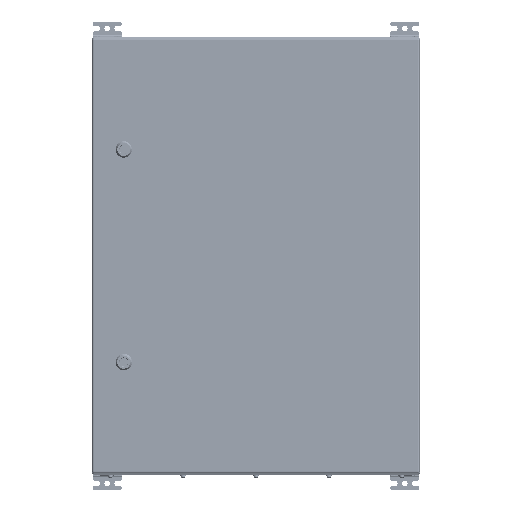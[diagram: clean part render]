
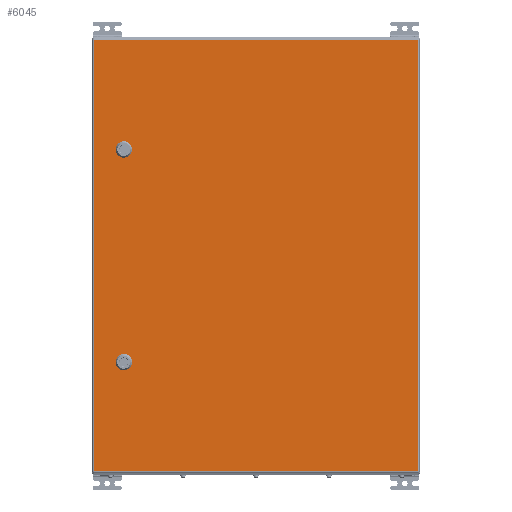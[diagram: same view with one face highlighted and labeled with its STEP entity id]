
A CAD part, top view. The second image highlights one B-rep face of the part: STEP entity #6045.
In plain terms, the highlighted planar face has unit normal (0, 0, 1).
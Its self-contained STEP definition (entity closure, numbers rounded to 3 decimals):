
#6045=ADVANCED_FACE('',(#13969,#13971,#13973),#13975,.T.);
#13969=FACE_BOUND('',#13970,.T.);
#13970=EDGE_LOOP('',(#36249,#36250,#36251,#36252));
#13971=FACE_BOUND('',#13972,.T.);
#13972=EDGE_LOOP('',(#36253,#36254,#36255,#36256,#36257,#36258,#36259,#36260));
#13973=FACE_BOUND('',#13974,.T.);
#13974=EDGE_LOOP('',(#36261,#36262,#36263,#36264,#36265,#36266,#36267,#36268));
#13975=PLANE('',#13976);
#13976=AXIS2_PLACEMENT_3D('',#13977,#13978,#13979);
#13977=CARTESIAN_POINT('',(0.,0.,1.5));
#13978=DIRECTION('',(0.,0.,1.));
#13979=DIRECTION('',(1.,0.,0.));
#36249=ORIENTED_EDGE('',*,*,#40355,.T.);
#36250=ORIENTED_EDGE('',*,*,#40356,.T.);
#36251=ORIENTED_EDGE('',*,*,#40278,.T.);
#36252=ORIENTED_EDGE('',*,*,#40357,.T.);
#36253=ORIENTED_EDGE('',*,*,#40358,.T.);
#36254=ORIENTED_EDGE('',*,*,#40359,.T.);
#36255=ORIENTED_EDGE('',*,*,#40360,.T.);
#36256=ORIENTED_EDGE('',*,*,#40361,.T.);
#36257=ORIENTED_EDGE('',*,*,#40362,.T.);
#36258=ORIENTED_EDGE('',*,*,#40363,.T.);
#36259=ORIENTED_EDGE('',*,*,#40364,.T.);
#36260=ORIENTED_EDGE('',*,*,#40365,.T.);
#36261=ORIENTED_EDGE('',*,*,#40366,.T.);
#36262=ORIENTED_EDGE('',*,*,#40367,.T.);
#36263=ORIENTED_EDGE('',*,*,#40368,.T.);
#36264=ORIENTED_EDGE('',*,*,#40369,.T.);
#36265=ORIENTED_EDGE('',*,*,#40370,.T.);
#36266=ORIENTED_EDGE('',*,*,#40371,.T.);
#36267=ORIENTED_EDGE('',*,*,#40372,.T.);
#36268=ORIENTED_EDGE('',*,*,#40373,.T.);
#40278=EDGE_CURVE('',#43647,#43645,#43648,.T.);
#40355=EDGE_CURVE('',#43784,#43785,#43786,.T.);
#40356=EDGE_CURVE('',#43785,#43647,#43787,.T.);
#40357=EDGE_CURVE('',#43645,#43784,#43788,.T.);
#40358=EDGE_CURVE('',#43789,#43790,#43791,.T.);
#40359=EDGE_CURVE('',#43790,#43792,#43793,.F.);
#40360=EDGE_CURVE('',#43792,#43794,#43795,.T.);
#40361=EDGE_CURVE('',#43794,#43796,#43797,.F.);
#40362=EDGE_CURVE('',#43796,#43798,#43799,.T.);
#40363=EDGE_CURVE('',#43798,#43800,#43801,.F.);
#40364=EDGE_CURVE('',#43800,#43802,#43803,.T.);
#40365=EDGE_CURVE('',#43802,#43789,#43804,.F.);
#40366=EDGE_CURVE('',#43805,#43806,#43807,.T.);
#40367=EDGE_CURVE('',#43806,#43808,#43809,.F.);
#40368=EDGE_CURVE('',#43808,#43810,#43811,.T.);
#40369=EDGE_CURVE('',#43810,#43812,#43813,.F.);
#40370=EDGE_CURVE('',#43812,#43814,#43815,.T.);
#40371=EDGE_CURVE('',#43814,#43816,#43817,.F.);
#40372=EDGE_CURVE('',#43816,#43818,#43819,.T.);
#40373=EDGE_CURVE('',#43818,#43805,#43820,.F.);
#43645=VERTEX_POINT('',#52233);
#43647=VERTEX_POINT('',#52238);
#43648=LINE('',#52239,#52240);
#43784=VERTEX_POINT('',#52554);
#43785=VERTEX_POINT('',#52555);
#43786=LINE('',#52556,#52557);
#43787=LINE('',#52559,#52560);
#43788=LINE('',#52562,#52563);
#43789=VERTEX_POINT('',#52565);
#43790=VERTEX_POINT('',#52566);
#43791=CIRCLE('',#52567,11.25);
#43792=VERTEX_POINT('',#52571);
#43793=LINE('',#52572,#52573);
#43794=VERTEX_POINT('',#52575);
#43795=CIRCLE('',#52576,11.25);
#43796=VERTEX_POINT('',#52580);
#43797=LINE('',#52581,#52582);
#43798=VERTEX_POINT('',#52584);
#43799=CIRCLE('',#52585,11.25);
#43800=VERTEX_POINT('',#52589);
#43801=LINE('',#52590,#52591);
#43802=VERTEX_POINT('',#52593);
#43803=CIRCLE('',#52594,11.25);
#43804=LINE('',#52598,#52599);
#43805=VERTEX_POINT('',#52601);
#43806=VERTEX_POINT('',#52602);
#43807=CIRCLE('',#52603,11.25);
#43808=VERTEX_POINT('',#52607);
#43809=LINE('',#52608,#52609);
#43810=VERTEX_POINT('',#52611);
#43811=CIRCLE('',#52612,11.25);
#43812=VERTEX_POINT('',#52616);
#43813=LINE('',#52617,#52618);
#43814=VERTEX_POINT('',#52620);
#43815=CIRCLE('',#52621,11.25);
#43816=VERTEX_POINT('',#52625);
#43817=LINE('',#52626,#52627);
#43818=VERTEX_POINT('',#52629);
#43819=CIRCLE('',#52630,11.25);
#43820=LINE('',#52634,#52635);
#52233=CARTESIAN_POINT('',(0.,0.,1.5));
#52238=CARTESIAN_POINT('',(0.,-592.,1.5));
#52239=CARTESIAN_POINT('',(0.,-592.,1.5));
#52240=VECTOR('',#52241,1.);
#52241=DIRECTION('',(0.,1.,0.));
#52554=CARTESIAN_POINT('',(-789.,0.,1.5));
#52555=CARTESIAN_POINT('',(-789.,-592.,1.5));
#52556=CARTESIAN_POINT('',(-789.,0.,1.5));
#52557=VECTOR('',#52558,1.);
#52558=DIRECTION('',(0.,-1.,0.));
#52559=CARTESIAN_POINT('',(-789.,-592.,1.5));
#52560=VECTOR('',#52561,1.);
#52561=DIRECTION('',(1.,0.,0.));
#52562=CARTESIAN_POINT('',(0.,0.,1.5));
#52563=VECTOR('',#52564,1.);
#52564=DIRECTION('',(-1.,0.,0.));
#52565=CARTESIAN_POINT('',(-599.1,-49.545,1.5));
#52566=CARTESIAN_POINT('',(-593.955,-44.4,1.5));
#52567=AXIS2_PLACEMENT_3D('',#52568,#52569,#52570);
#52568=CARTESIAN_POINT('',(-589.,-54.5,1.5));
#52569=DIRECTION('',(0.,0.,-1.));
#52570=DIRECTION('',(-0.898,0.44,0.));
#52571=CARTESIAN_POINT('',(-584.045,-44.4,1.5));
#52572=CARTESIAN_POINT('',(-584.045,-44.4,1.5));
#52573=VECTOR('',#52574,1.);
#52574=DIRECTION('',(-1.,0.,0.));
#52575=CARTESIAN_POINT('',(-578.9,-49.545,1.5));
#52576=AXIS2_PLACEMENT_3D('',#52577,#52578,#52579);
#52577=CARTESIAN_POINT('',(-589.,-54.5,1.5));
#52578=DIRECTION('',(0.,0.,-1.));
#52579=DIRECTION('',(0.44,0.898,0.));
#52580=CARTESIAN_POINT('',(-578.9,-59.455,1.5));
#52581=CARTESIAN_POINT('',(-578.9,-59.455,1.5));
#52582=VECTOR('',#52583,1.);
#52583=DIRECTION('',(0.,1.,0.));
#52584=CARTESIAN_POINT('',(-584.045,-64.6,1.5));
#52585=AXIS2_PLACEMENT_3D('',#52586,#52587,#52588);
#52586=CARTESIAN_POINT('',(-589.,-54.5,1.5));
#52587=DIRECTION('',(0.,0.,-1.));
#52588=DIRECTION('',(0.898,-0.44,0.));
#52589=CARTESIAN_POINT('',(-593.955,-64.6,1.5));
#52590=CARTESIAN_POINT('',(-593.955,-64.6,1.5));
#52591=VECTOR('',#52592,1.);
#52592=DIRECTION('',(1.,0.,0.));
#52593=CARTESIAN_POINT('',(-599.1,-59.455,1.5));
#52594=AXIS2_PLACEMENT_3D('',#52595,#52596,#52597);
#52595=CARTESIAN_POINT('',(-589.,-54.5,1.5));
#52596=DIRECTION('',(0.,0.,-1.));
#52597=DIRECTION('',(-0.44,-0.898,0.));
#52598=CARTESIAN_POINT('',(-599.1,-49.545,1.5));
#52599=VECTOR('',#52600,1.);
#52600=DIRECTION('',(0.,-1.,0.));
#52601=CARTESIAN_POINT('',(-210.1,-49.545,1.5));
#52602=CARTESIAN_POINT('',(-204.955,-44.4,1.5));
#52603=AXIS2_PLACEMENT_3D('',#52604,#52605,#52606);
#52604=CARTESIAN_POINT('',(-200.,-54.5,1.5));
#52605=DIRECTION('',(0.,0.,-1.));
#52606=DIRECTION('',(-0.898,0.44,0.));
#52607=CARTESIAN_POINT('',(-195.045,-44.4,1.5));
#52608=CARTESIAN_POINT('',(-195.045,-44.4,1.5));
#52609=VECTOR('',#52610,1.);
#52610=DIRECTION('',(-1.,0.,0.));
#52611=CARTESIAN_POINT('',(-189.9,-49.545,1.5));
#52612=AXIS2_PLACEMENT_3D('',#52613,#52614,#52615);
#52613=CARTESIAN_POINT('',(-200.,-54.5,1.5));
#52614=DIRECTION('',(0.,0.,-1.));
#52615=DIRECTION('',(0.44,0.898,0.));
#52616=CARTESIAN_POINT('',(-189.9,-59.455,1.5));
#52617=CARTESIAN_POINT('',(-189.9,-59.455,1.5));
#52618=VECTOR('',#52619,1.);
#52619=DIRECTION('',(0.,1.,0.));
#52620=CARTESIAN_POINT('',(-195.045,-64.6,1.5));
#52621=AXIS2_PLACEMENT_3D('',#52622,#52623,#52624);
#52622=CARTESIAN_POINT('',(-200.,-54.5,1.5));
#52623=DIRECTION('',(0.,0.,-1.));
#52624=DIRECTION('',(0.898,-0.44,0.));
#52625=CARTESIAN_POINT('',(-204.955,-64.6,1.5));
#52626=CARTESIAN_POINT('',(-204.955,-64.6,1.5));
#52627=VECTOR('',#52628,1.);
#52628=DIRECTION('',(1.,0.,0.));
#52629=CARTESIAN_POINT('',(-210.1,-59.455,1.5));
#52630=AXIS2_PLACEMENT_3D('',#52631,#52632,#52633);
#52631=CARTESIAN_POINT('',(-200.,-54.5,1.5));
#52632=DIRECTION('',(0.,0.,-1.));
#52633=DIRECTION('',(-0.44,-0.898,0.));
#52634=CARTESIAN_POINT('',(-210.1,-49.545,1.5));
#52635=VECTOR('',#52636,1.);
#52636=DIRECTION('',(0.,-1.,0.));
